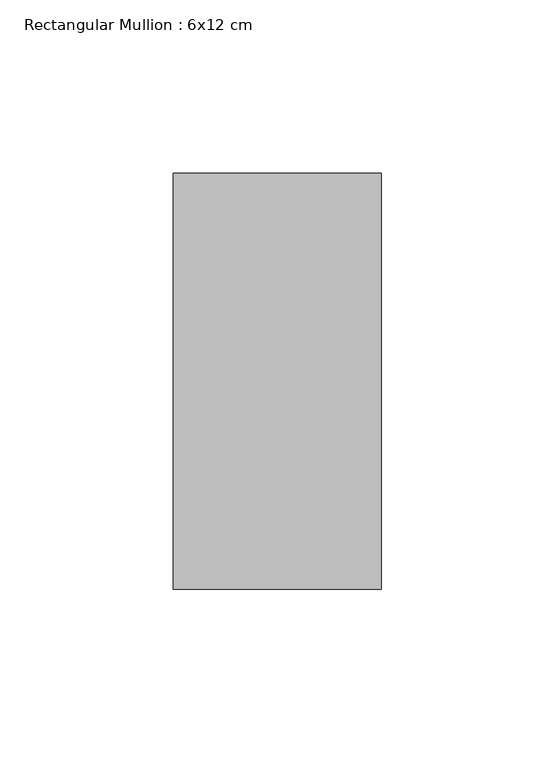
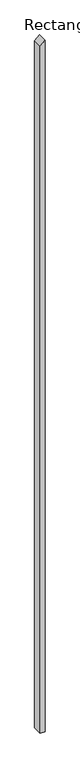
"""IFC4 building model written with IfcOpenShell, lengths in millimetres: member geometry, Rectangular Mullion : 6x12 cm."""

from ifc_helpers import new_model, si_unit, frame, origin, place, context, project, spatial, polyline, outline, extrude, source, transform, mapped, element, save


def rectangular_mullion_6x12_cm_8e9cb1c9(model_context):
    return source(origin(), model_context, "Body", "SweptSolid", [
        extrude(outline(polyline([(-54.2281179, 30.0), (-111.0657265, -30.0), (-9240.7721196, -30.0), (-9240.7721196, 30.0), (-54.2281179, 30.0)])), frame((0.0, 85.0, 0.0), z_axis=(0.0, 1.0, 0.0), x_axis=(0.0, 0.0, 1.0)), (0.0, 0.0, 1.0), 120.0),
    ])


if __name__ == "__main__":
    model = new_model("IFC4")
    model_context = context("Model", 3, world=origin())
    ifc_project = project(units=[si_unit("LENGTHUNIT", "METRE", prefix="MILLI")], contexts=[model_context])
    site = spatial("IfcSite", under=ifc_project)
    building = spatial("IfcBuilding", under=site)
    placement = place(None, origin())
    rectangular_mullion_6x12_cm_shape = rectangular_mullion_6x12_cm_8e9cb1c9(model_context)
    element("IfcMember", 1, ObjectType="Rectangular Mullion : 6x12 cm", at=placement, inside=building, context=model_context, shape_type="MappedRepresentation", body=[
        mapped(rectangular_mullion_6x12_cm_shape, transform((0.0, 0.0, 0.0), x_axis=(1.0, 0.0, 0.0), y_axis=(0.0, 1.0, 0.0), z_axis=(0.0, 0.0, 1.0))),
    ])
    save(model, "model.ifc")
